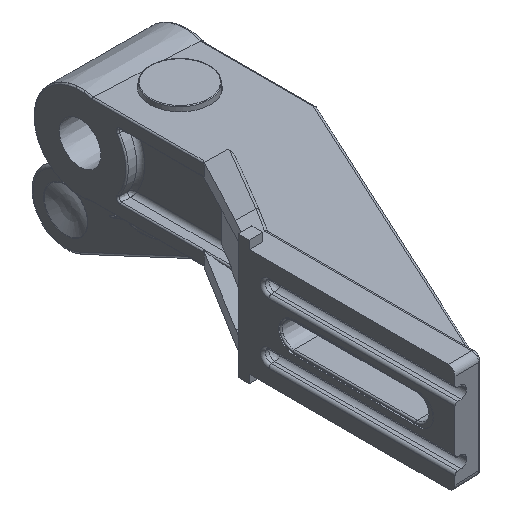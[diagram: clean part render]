
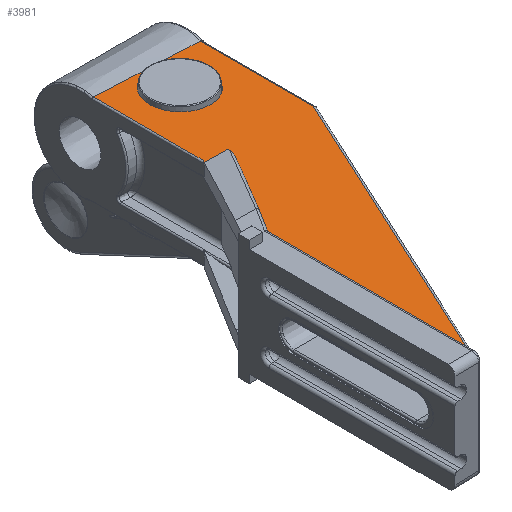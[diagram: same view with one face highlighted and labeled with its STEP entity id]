
A CAD part, isometric view. The second image highlights one B-rep face of the part: STEP entity #3981.
In plain terms, the highlighted planar face has unit normal (0.013, 0, 1).
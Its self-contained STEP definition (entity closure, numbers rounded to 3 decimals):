
#256=FACE_BOUND('',#831,.T.);
#440=ELLIPSE('',#4293,11.001,11.);
#441=ELLIPSE('',#4323,1158.768,15.032);
#442=ELLIPSE('',#4324,11.322,1.);
#592=FACE_OUTER_BOUND('',#830,.T.);
#830=EDGE_LOOP('',(#3057,#3058,#3059,#3060,#3061,#3062,#3063,#3064,#3065,
#3066,#3067));
#831=EDGE_LOOP('',(#3068));
#1080=LINE('',#8111,#1374);
#1081=LINE('',#8113,#1375);
#1082=LINE('',#8117,#1376);
#1083=LINE('',#8119,#1377);
#1084=LINE('',#8121,#1378);
#1085=LINE('',#8123,#1379);
#1086=LINE('',#8127,#1380);
#1087=LINE('',#8129,#1381);
#1088=LINE('',#8130,#1382);
#1374=VECTOR('',#5038,118.808);
#1375=VECTOR('',#5039,41.32);
#1376=VECTOR('',#5042,40.058);
#1377=VECTOR('',#5043,1.031);
#1378=VECTOR('',#5044,8.51);
#1379=VECTOR('',#5045,2.022);
#1380=VECTOR('',#5048,30.939);
#1381=VECTOR('',#5049,73.335);
#1382=VECTOR('',#5050,0.61);
#1734=VERTEX_POINT('',#7941);
#1774=VERTEX_POINT('',#8109);
#1775=VERTEX_POINT('',#8110);
#1776=VERTEX_POINT('',#8112);
#1777=VERTEX_POINT('',#8114);
#1778=VERTEX_POINT('',#8116);
#1779=VERTEX_POINT('',#8118);
#1780=VERTEX_POINT('',#8120);
#1781=VERTEX_POINT('',#8122);
#1782=VERTEX_POINT('',#8124);
#1783=VERTEX_POINT('',#8126);
#1784=VERTEX_POINT('',#8128);
#2197=EDGE_CURVE('',#1734,#1734,#440,.T.);
#2249=EDGE_CURVE('',#1774,#1775,#1080,.T.);
#2250=EDGE_CURVE('',#1775,#1776,#1081,.T.);
#2251=EDGE_CURVE('',#1776,#1777,#441,.T.);
#2252=EDGE_CURVE('',#1777,#1778,#1082,.T.);
#2253=EDGE_CURVE('',#1778,#1779,#1083,.T.);
#2254=EDGE_CURVE('',#1780,#1779,#1084,.T.);
#2255=EDGE_CURVE('',#1780,#1781,#1085,.T.);
#2256=EDGE_CURVE('',#1781,#1782,#442,.T.);
#2257=EDGE_CURVE('',#1782,#1783,#1086,.T.);
#2258=EDGE_CURVE('',#1783,#1784,#1087,.T.);
#2259=EDGE_CURVE('',#1784,#1774,#1088,.T.);
#3057=ORIENTED_EDGE('',*,*,#2249,.T.);
#3058=ORIENTED_EDGE('',*,*,#2250,.T.);
#3059=ORIENTED_EDGE('',*,*,#2251,.T.);
#3060=ORIENTED_EDGE('',*,*,#2252,.T.);
#3061=ORIENTED_EDGE('',*,*,#2253,.T.);
#3062=ORIENTED_EDGE('',*,*,#2254,.F.);
#3063=ORIENTED_EDGE('',*,*,#2255,.T.);
#3064=ORIENTED_EDGE('',*,*,#2256,.T.);
#3065=ORIENTED_EDGE('',*,*,#2257,.T.);
#3066=ORIENTED_EDGE('',*,*,#2258,.T.);
#3067=ORIENTED_EDGE('',*,*,#2259,.T.);
#3068=ORIENTED_EDGE('',*,*,#2197,.F.);
#3819=PLANE('',#4322);
#3981=ADVANCED_FACE('',(#592,#256),#3819,.F.);
#4293=AXIS2_PLACEMENT_3D('',#7943,#4946,#4947);
#4322=AXIS2_PLACEMENT_3D('',#8108,#5036,#5037);
#4323=AXIS2_PLACEMENT_3D('',#8115,#5040,#5041);
#4324=AXIS2_PLACEMENT_3D('',#8125,#5046,#5047);
#4946=DIRECTION('center_axis',(0.013,0.,
1.));
#4947=DIRECTION('ref_axis',(1.,0.,-0.013));
#5036=DIRECTION('center_axis',(-0.013,0.,
-1.));
#5037=DIRECTION('ref_axis',(-1.,0.,0.013));
#5038=DIRECTION('',(0.423,0.906,-0.006));
#5039=DIRECTION('',(0.,1.,0.));
#5040=DIRECTION('center_axis',(-0.013,0.,
-1.));
#5041=DIRECTION('ref_axis',(1.,0.,-0.013));
#5042=DIRECTION('',(0.,-1.,0.));
#5043=DIRECTION('',(-0.5,-0.866,0.007));
#5044=DIRECTION('',(-1.,0.001,0.013));
#5045=DIRECTION('',(0.,-1.,0.));
#5046=DIRECTION('center_axis',(-0.013,0.,
-1.));
#5047=DIRECTION('ref_axis',(0.538,0.843,-0.007));
#5048=DIRECTION('',(-0.537,-0.843,0.007));
#5049=DIRECTION('',(0.,-1.,0.));
#5050=DIRECTION('',(1.,0.,-0.013));
#7941=CARTESIAN_POINT('',(-81.781,61.229,16.444));
#7943=CARTESIAN_POINT('Origin',(-70.781,61.229,16.3));
#8108=CARTESIAN_POINT('Origin',(-112.781,73.788,16.85));
#8109=CARTESIAN_POINT('',(-102.372,-76.571,16.714));
#8110=CARTESIAN_POINT('',(-52.168,31.107,16.057));
#8111=CARTESIAN_POINT('',(-102.372,-76.571,16.714));
#8112=CARTESIAN_POINT('',(-52.168,72.427,16.057));
#8113=CARTESIAN_POINT('',(-52.168,31.107,16.057));
#8114=CARTESIAN_POINT('',(-89.775,73.804,16.549));
#8115=CARTESIAN_POINT('Origin',(1019.91,78.129,2.022));
#8116=CARTESIAN_POINT('',(-89.775,33.746,16.549));
#8117=CARTESIAN_POINT('',(-89.775,73.804,16.549));
#8118=CARTESIAN_POINT('',(-90.29,32.853,16.556));
#8119=CARTESIAN_POINT('',(-89.775,33.746,16.549));
#8120=CARTESIAN_POINT('',(-81.781,32.847,16.444));
#8121=CARTESIAN_POINT('',(-81.781,32.847,16.444));
#8122=CARTESIAN_POINT('',(-81.781,30.825,16.444));
#8123=CARTESIAN_POINT('',(-81.781,32.847,16.444));
#8124=CARTESIAN_POINT('',(-86.358,22.857,16.504));
#8125=CARTESIAN_POINT('Origin',(-87.268,23.289,16.516));
#8126=CARTESIAN_POINT('',(-102.981,-3.236,16.722));
#8127=CARTESIAN_POINT('',(-86.358,22.857,16.504));
#8128=CARTESIAN_POINT('',(-102.981,-76.571,16.722));
#8129=CARTESIAN_POINT('',(-102.981,-3.236,16.722));
#8130=CARTESIAN_POINT('',(-102.981,-76.571,16.722));
